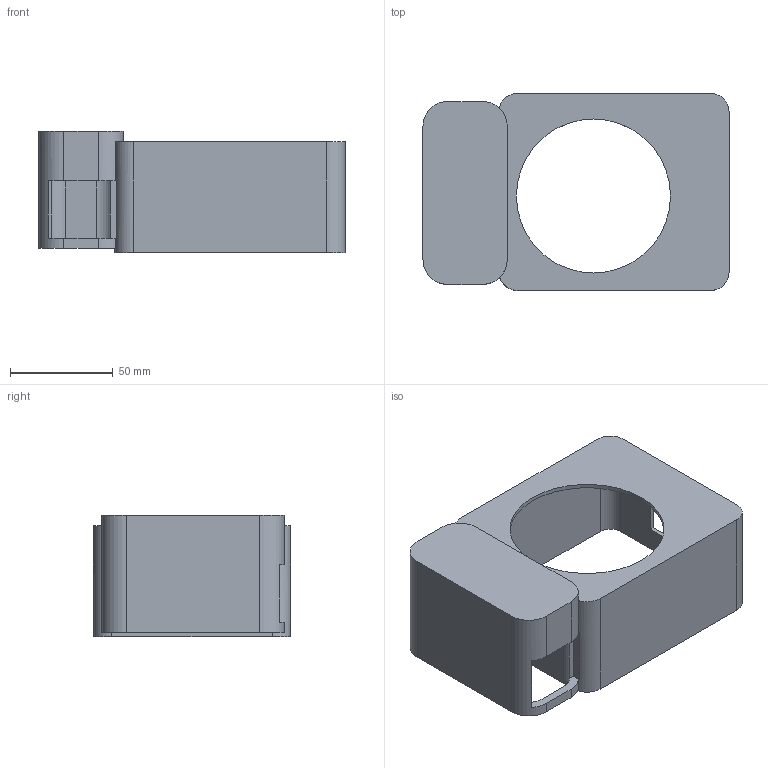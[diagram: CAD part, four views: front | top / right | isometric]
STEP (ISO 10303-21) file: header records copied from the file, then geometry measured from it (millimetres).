
FILE_DESCRIPTION(('Open CASCADE Model'),'2;1');
FILE_NAME('Open CASCADE Shape Model','2026-11-05T01:23:30',('Author'),( 'Open CASCADE'),'Open CASCADE STEP processor 7.8','Open CASCADE 7.8' ,'Unknown');
FILE_SCHEMA(('AUTOMOTIVE_DESIGN { 1 0 10303 214 1 1 1 1 }'));
Length unit declared in the file: millimetre
Products named in the file (1): Open CASCADE STEP translator 7.8 1
Bounding box: 149 x 96 x 59 mm (x, y, z)
Volume: 93916 mm3; surface area: 74132 mm2
Topology: 1 solids, 1 shells, 55 faces, 162 edges, 108 vertices
Faces by surface type: plane 37, cylinder 18
Full cylindrical faces by diameter (mm): 75 x1
Entity records: 4078 total; most frequent: CARTESIAN_POINT 854, DIRECTION 612, LINE 390, VECTOR 390, ORIENTED_EDGE 324, PCURVE 324, DEFINITIONAL_REPRESENTATION 324, EDGE_CURVE 162
